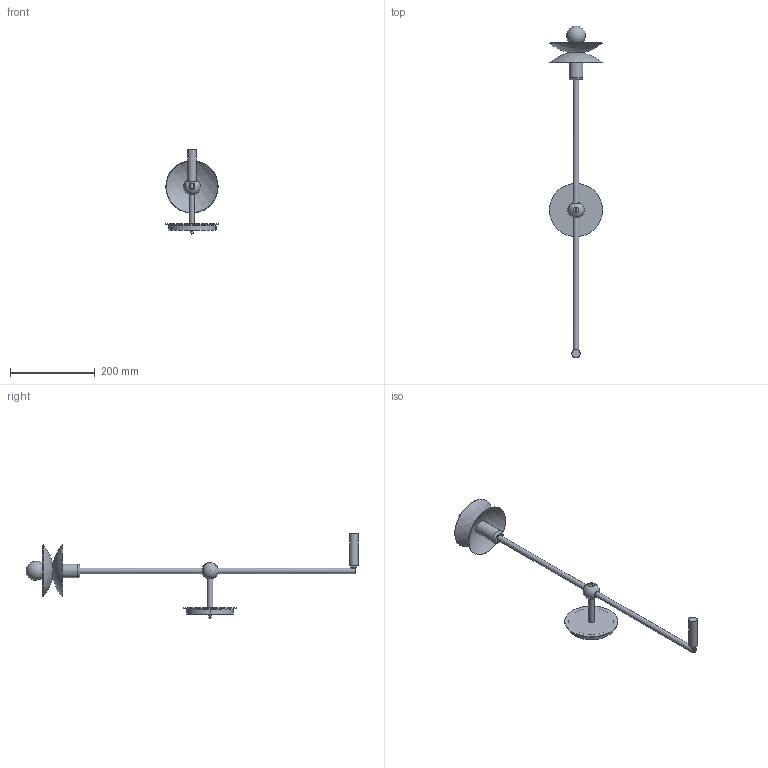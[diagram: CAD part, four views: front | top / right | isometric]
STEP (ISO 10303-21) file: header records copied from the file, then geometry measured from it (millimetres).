
FILE_DESCRIPTION(/* description */ (''),/* implementation_level */ '2;1');
FILE_NAME(/* name */ '260910_B_B908.stp',/* time_stamp */ '2026-09-10T09:42:59+02:00',/* author */ ('Dominik'),/* organization */ (''),/* preprocessor_version */ 'ST-DEVELOPER v20.1',/* originating_system */ 'Autodesk Inventor 2027',/* authorisation */ '');
FILE_SCHEMA (('AUTOMOTIVE_DESIGN { 1 0 10303 214 3 1 1 }'));
Length unit declared in the file: millimetre
Products named in the file (1): B908 jako część
Bounding box: 125 x 781.37 x 198.29 mm (x, y, z)
Volume: 434115.4 mm3; surface area: 138551.8 mm2
Topology: 2 solids, 3 shells, 104 faces, 240 edges, 166 vertices
Faces by surface type: plane 48, cylinder 34, sphere 9, torus 8, cone 3, bspline 2
Full cylindrical faces by diameter (mm): 4 x1, 5 x1, 6 x1, 7.6 x1, 11.6 x2, 11.917 x1, 13 x3, 13.1 x1, 13.5 x3, 14 x1, 20 x1, 23.1 x1, 23.5 x1, 28 x1, 29 x2, 32 x1, 39.5 x2, 125 x1
Entity records: 3523 total; most frequent: CARTESIAN_POINT 845, DIRECTION 559, ORIENTED_EDGE 458, AXIS2_PLACEMENT_3D 234, EDGE_CURVE 229, VERTEX_POINT 147, EDGE_LOOP 130, CIRCLE 123
